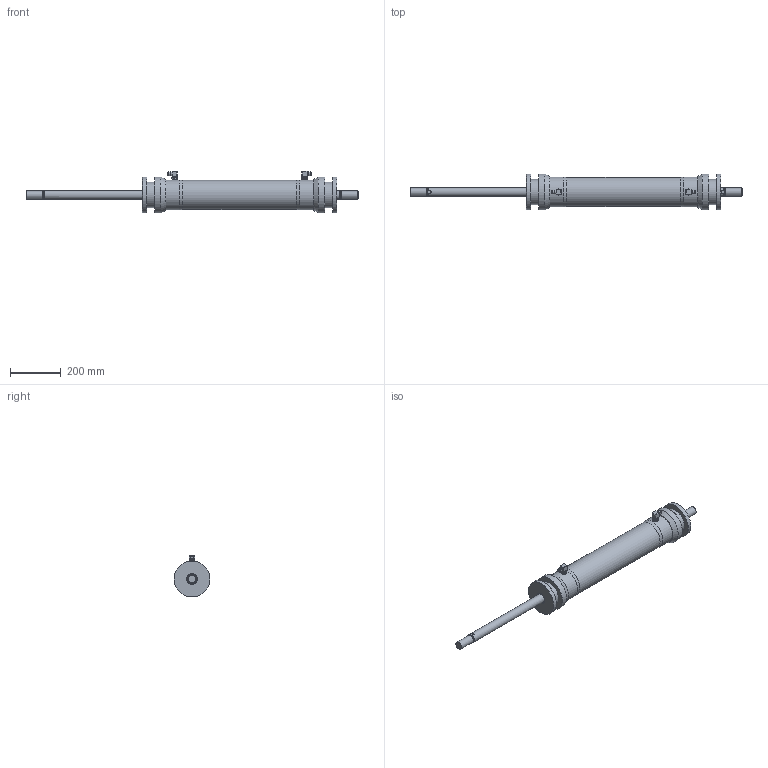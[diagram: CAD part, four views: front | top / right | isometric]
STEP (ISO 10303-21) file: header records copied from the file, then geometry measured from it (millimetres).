
FILE_DESCRIPTION(/* description */ (''),/* implementation_level */ '2;1');
FILE_NAME(/* name */ 'C:\STP.CR\TDA-71_Simplify_1 Rev1.stp',/* time_stamp */ '2021-11-03T09:42:04+00:00',/* author */ ('AL'),/* organization */ (''),/* preprocessor_version */ 'ST-DEVELOPER v18.1',/* originating_system */ 'Autodesk Inventor 2022',/* authorisation */ '');
FILE_SCHEMA (('AUTOMOTIVE_DESIGN { 1 0 10303 214 3 1 1 }'));
Length unit declared in the file: millimetre
Products named in the file (1): TDA-71_Simplify_1
Bounding box: 1308.5 x 141.4 x 164.95 mm (x, y, z)
Volume: 8832387.4 mm3; surface area: 441559.6 mm2
Topology: 1 solids, 1 shells, 185 faces, 377 edges, 230 vertices
Faces by surface type: plane 84, cylinder 47, cone 38, torus 16
Full cylindrical faces by diameter (mm): 13.25 x4, 14.25 x2, 14.35 x2, 14.662 x2, 15.662 x2, 16.662 x4, 21.4 x4, 29.299 x2, 31.699 x2, 35 x2, 37 x2, 39 x2, 43 x2, 43.6 x2, 100 x2, 114.4 x1, 117.4 x2, 141.4 x4
Entity records: 5135 total; most frequent: CARTESIAN_POINT 949, DIRECTION 879, ORIENTED_EDGE 754, EDGE_CURVE 377, AXIS2_PLACEMENT_3D 358, VERTEX_POINT 230, EDGE_LOOP 221, STYLED_ITEM 186
